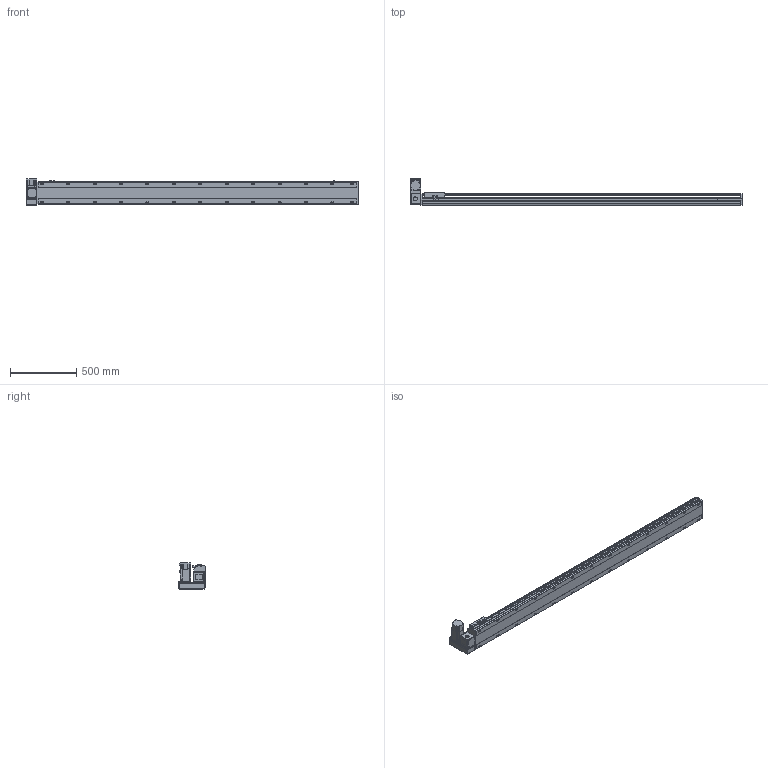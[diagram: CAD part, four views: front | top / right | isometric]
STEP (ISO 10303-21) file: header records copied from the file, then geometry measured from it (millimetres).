
FILE_DESCRIPTION( ( 'STEP AP214' ), '1' );
FILE_NAME( 'x:/temp/worker_4/temp/exporttempdir_2248_413_emaVf/format_0/PBS170-P40-S2150-LU-T75-C1-N(0).stp', '2022-06-07T08:16:59', ( 'License CC BY-ND 4.0' ), ( 'CADENAS' ), ' ', 'PARTsolutions', ' ' );
FILE_SCHEMA( ( 'AUTOMOTIVE_DESIGN { 1 0 10303 214 1 1 1 1 }' ) );
Length unit declared in the file: millimetre
Products named in the file (7): PBS170-P40-S2150-LU-T75-C1-N(0); _PBS170-S2150()_body; _PBS170T-LU_motors; _T75-p1; _PBS170_sliser; _PBS170_plant; _PBS170_sensor
Assembly tree (8 placements, depth 2):
  PBS170-P40-S2150-LU-T75-C1-N(0)
    _PBS170-S2150()_body
    _PBS170T-LU_motors
    _T75-p1
    _PBS170_sliser
    _PBS170_plant
    _PBS170_sensor  x3
Bounding box: 2513 x 206 x 197.3 mm (x, y, z)
Volume: 19185099.4 mm3; surface area: 2428560.4 mm2
Topology: 8 solids, 8 shells, 1162 faces, 3075 edges, 2004 vertices
Faces by surface type: plane 717, cylinder 379, cone 56, sphere 8, torus 2
Full cylindrical faces by diameter (mm): 3.242 x4, 4 x2, 4.4 x4, 4.5 x6, 4.917 x4, 6 x9, 6.647 x34, 7 x2, 7.5 x4, 8 x8, 8.5 x26, 10 x4, 10.5 x26, 11 x2, 30 x2, 40 x1, 70 x1
Entity records: 42950 total; most frequent: CARTESIAN_POINT 7061, DIRECTION 5650, ORIENTED_EDGE 5328, EDGE_CURVE 2664, AXIS2_PLACEMENT_3D 1987, VERTEX_POINT 1850, LINE 1676, VECTOR 1676
